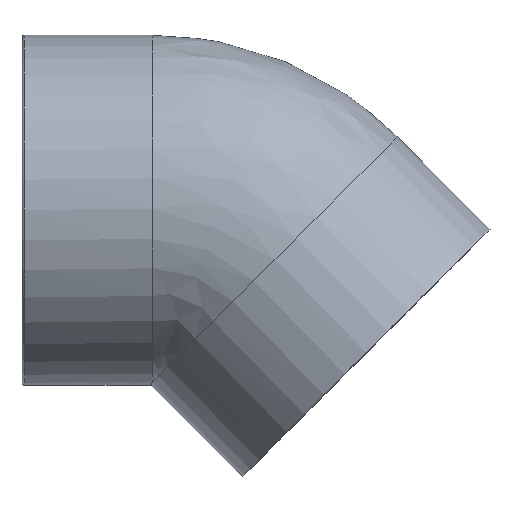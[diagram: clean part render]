
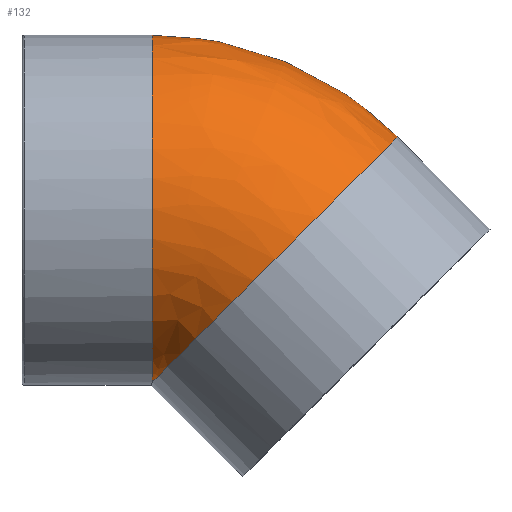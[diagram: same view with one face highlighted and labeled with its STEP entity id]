
A CAD part, top view. The second image highlights one B-rep face of the part: STEP entity #132.
In plain terms, the highlighted free-form (B-spline) face has degree [2, 2] with [9, 3] control points.
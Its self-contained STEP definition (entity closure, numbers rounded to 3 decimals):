
#16=(
BOUNDED_SURFACE()
B_SPLINE_SURFACE(2,2,((#226,#227,#228),(#229,#230,#231),(#232,#233,#234),
(#235,#236,#237),(#238,#239,#240),(#241,#242,#243),(#244,#245,#246),(#247,
#248,#249),(#250,#251,#252)),.UNSPECIFIED.,.F.,.F.,.F.)
B_SPLINE_SURFACE_WITH_KNOTS((3,2,2,2,3),(3,3),(-2.952,-1.476,
0.,1.476,2.952),(1.571,2.356),
 .UNSPECIFIED.)
GEOMETRIC_REPRESENTATION_ITEM()
RATIONAL_B_SPLINE_SURFACE(((1.,0.924,1.),(0.74,
0.684,0.74),(1.,0.924,1.),(0.74,
0.684,0.74),(1.,0.924,1.),(0.74,
0.684,0.74),(1.,0.924,1.),(0.74,
0.684,0.74),(1.,0.924,1.)))
REPRESENTATION_ITEM('')
SURFACE()
);
#40=FACE_OUTER_BOUND('',#56,.T.);
#56=EDGE_LOOP('',(#111,#112));
#73=CIRCLE('',#151,29.5);
#74=CIRCLE('',#152,29.5);
#84=VERTEX_POINT('',#253);
#85=VERTEX_POINT('',#254);
#95=EDGE_CURVE('',#84,#85,#73,.T.);
#96=EDGE_CURVE('',#85,#84,#74,.T.);
#111=ORIENTED_EDGE('',*,*,#95,.T.);
#112=ORIENTED_EDGE('',*,*,#96,.T.);
#132=ADVANCED_FACE('',(#40),#16,.F.);
#151=AXIS2_PLACEMENT_3D('',#255,#186,#187);
#152=AXIS2_PLACEMENT_3D('',#256,#188,#189);
#186=DIRECTION('center_axis',(1.,0.,0.));
#187=DIRECTION('ref_axis',(0.,0.,-1.));
#188=DIRECTION('center_axis',(-0.707,0.707,0.));
#189=DIRECTION('ref_axis',(0.,0.,-1.));
#226=CARTESIAN_POINT('Ctrl Pts',(-12.,-28.971,5.564));
#227=CARTESIAN_POINT('Ctrl Pts',(-12.,-28.971,5.564));
#228=CARTESIAN_POINT('Ctrl Pts',(-12.,-28.971,5.564));
#229=CARTESIAN_POINT('Ctrl Pts',(-12.,-23.911,31.909));
#230=CARTESIAN_POINT('Ctrl Pts',(-9.904,-23.911,31.909));
#231=CARTESIAN_POINT('Ctrl Pts',(-8.422,-25.393,31.909));
#232=CARTESIAN_POINT('Ctrl Pts',(-12.,2.794,29.367));
#233=CARTESIAN_POINT('Ctrl Pts',(1.158,2.794,29.367));
#234=CARTESIAN_POINT('Ctrl Pts',(10.461,-6.509,29.367));
#235=CARTESIAN_POINT('Ctrl Pts',(-12.,29.5,26.826));
#236=CARTESIAN_POINT('Ctrl Pts',(12.219,29.5,26.826));
#237=CARTESIAN_POINT('Ctrl Pts',(29.345,12.374,26.826));
#238=CARTESIAN_POINT('Ctrl Pts',(-12.,29.5,0.));
#239=CARTESIAN_POINT('Ctrl Pts',(12.219,29.5,0.));
#240=CARTESIAN_POINT('Ctrl Pts',(29.345,12.374,0.));
#241=CARTESIAN_POINT('Ctrl Pts',(-12.,29.5,-26.826));
#242=CARTESIAN_POINT('Ctrl Pts',(12.219,29.5,-26.826));
#243=CARTESIAN_POINT('Ctrl Pts',(29.345,12.374,-26.826));
#244=CARTESIAN_POINT('Ctrl Pts',(-12.,2.794,-29.367));
#245=CARTESIAN_POINT('Ctrl Pts',(1.158,2.794,-29.367));
#246=CARTESIAN_POINT('Ctrl Pts',(10.461,-6.509,-29.367));
#247=CARTESIAN_POINT('Ctrl Pts',(-12.,-23.911,-31.909));
#248=CARTESIAN_POINT('Ctrl Pts',(-9.904,-23.911,-31.909));
#249=CARTESIAN_POINT('Ctrl Pts',(-8.422,-25.393,-31.909));
#250=CARTESIAN_POINT('Ctrl Pts',(-12.,-28.971,-5.564));
#251=CARTESIAN_POINT('Ctrl Pts',(-12.,-28.971,-5.564));
#252=CARTESIAN_POINT('Ctrl Pts',(-12.,-28.971,-5.564));
#253=CARTESIAN_POINT('',(-12.,-28.971,-5.564));
#254=CARTESIAN_POINT('',(-12.,-28.971,5.564));
#255=CARTESIAN_POINT('Origin',(-12.,0.,0.));
#256=CARTESIAN_POINT('Origin',(8.485,-8.485,0.));
